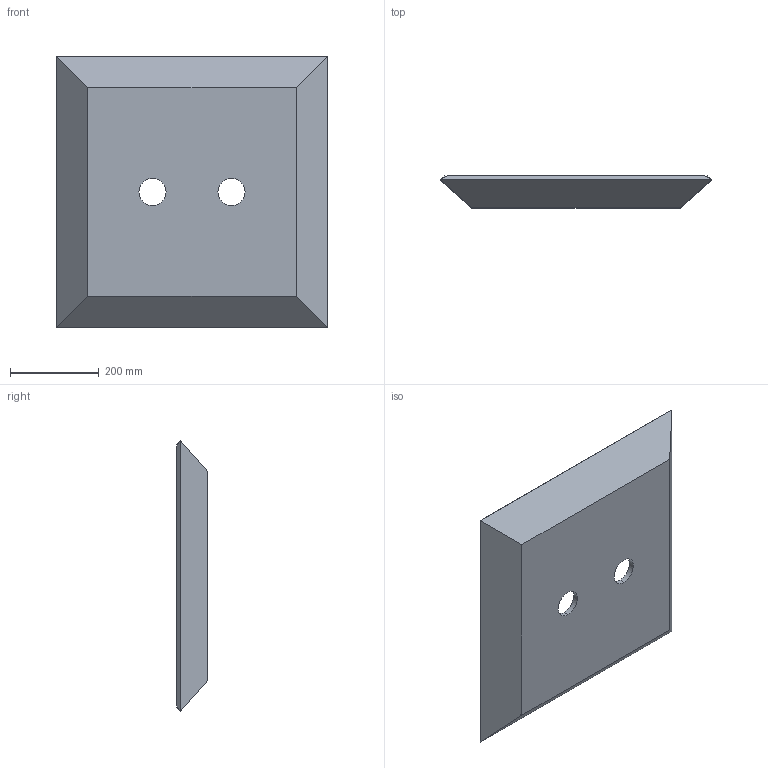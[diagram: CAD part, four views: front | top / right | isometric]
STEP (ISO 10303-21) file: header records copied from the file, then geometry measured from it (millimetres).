
FILE_DESCRIPTION (( 'STEP AP214' ), '1' );
FILE_NAME ('Spot Flood - Dual - 3 In Deep Assembly - V5.STEP', '2022-08-02T15:26:28', ( '' ), ( '' ), 'SwSTEP 2.0', 'SolidWorks 2020', '' );
FILE_SCHEMA (( 'AUTOMOTIVE_DESIGN' ));
Length unit declared in the file: inch
Products named in the file (3): Spot Flood - Dual - 3 In Deep Assembly - V5; Spot Flood - Dual - 3 In Deep Top - V5; 3 In Deep Extruded Tile Side - V5
Assembly tree (5 placements, depth 2):
  Spot Flood - Dual - 3 In Deep Assembly - V5
    Spot Flood - Dual - 3 In Deep Top - V5
    3 In Deep Extruded Tile Side - V5  x4
Bounding box: 609.6 x 71.4 x 609.6 mm (x, y, z)
Volume: 4698153.9 mm3; surface area: 890481.1 mm2
Topology: 5 solids, 5 shells, 34 faces, 72 edges, 48 vertices
Faces by surface type: plane 30, cylinder 4
Entity records: 604 total; most frequent: DIRECTION 92, CARTESIAN_POINT 84, ORIENTED_EDGE 72, EDGE_CURVE 36, AXIS2_PLACEMENT_3D 32, LINE 28, VECTOR 28, VERTEX_POINT 24
